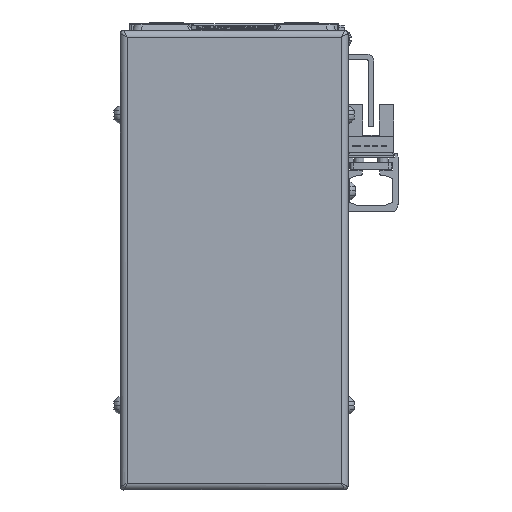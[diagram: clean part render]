
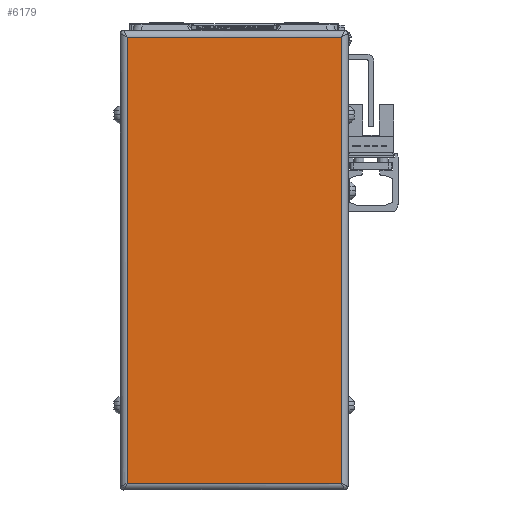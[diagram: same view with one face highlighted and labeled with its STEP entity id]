
A CAD part, left-side view. The second image highlights one B-rep face of the part: STEP entity #6179.
In plain terms, the highlighted planar face has unit normal (-1, 0, 0) as drawn and (0, 0, 1) by its records, which use the part's own axes.
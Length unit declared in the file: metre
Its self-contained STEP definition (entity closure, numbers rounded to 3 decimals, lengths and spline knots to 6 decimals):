
#6179=ADVANCED_FACE('',(#12341),#12342,.T.);
#12341=FACE_OUTER_BOUND('',#20043,.T.);
#12342=PLANE('',#20044);
#20043=EDGE_LOOP('',(#36970,#36971,#36972,#36973));
#20044=AXIS2_PLACEMENT_3D('',#36974,#36975,#36976);
#36970=ORIENTED_EDGE('',*,*,#43351,.F.);
#36971=ORIENTED_EDGE('',*,*,#45081,.F.);
#36972=ORIENTED_EDGE('',*,*,#44853,.F.);
#36973=ORIENTED_EDGE('',*,*,#47056,.F.);
#36974=CARTESIAN_POINT('',(-0.054,-0.014256,0.033889));
#36975=DIRECTION('',(0.0,0.0,1.0));
#36976=DIRECTION('',(1.0,0.0,0.0));
#43351=EDGE_CURVE('',#51386,#48300,#51389,.T.);
#44853=EDGE_CURVE('',#53735,#53737,#53738,.T.);
#45081=EDGE_CURVE('',#53737,#51386,#54081,.T.);
#47056=EDGE_CURVE('',#48300,#53735,#56693,.T.);
#48300=VERTEX_POINT('',#58206);
#51386=VERTEX_POINT('',#62655);
#51389=LINE('',#62667,#62668);
#53735=VERTEX_POINT('',#66007);
#53737=VERTEX_POINT('',#66018);
#53738=LINE('',#66019,#66020);
#54081=LINE('',#66583,#66584);
#56693=LINE('',#70555,#70556);
#58206=CARTESIAN_POINT('',(0.012,-0.045956,0.033889));
#62655=CARTESIAN_POINT('',(0.012,0.017444,0.033889));
#62667=CARTESIAN_POINT('',(0.012,-0.014256,0.033889));
#62668=VECTOR('',#74631,1.0);
#66007=CARTESIAN_POINT('',(-0.12,-0.045956,0.033889));
#66018=CARTESIAN_POINT('',(-0.12,0.017444,0.033889));
#66019=CARTESIAN_POINT('',(-0.12,-0.014256,0.033889));
#66020=VECTOR('',#76381,1.0);
#66583=CARTESIAN_POINT('',(-0.054,0.017444,0.033889));
#66584=VECTOR('',#76625,1.0);
#70555=CARTESIAN_POINT('',(-0.054,-0.045956,0.033889));
#70556=VECTOR('',#78565,1.0);
#74631=DIRECTION('',(0.0,-1.0,0.0));
#76381=DIRECTION('',(0.0,1.0,0.0));
#76625=DIRECTION('',(1.0,0.0,0.0));
#78565=DIRECTION('',(-1.0,0.0,0.0));
